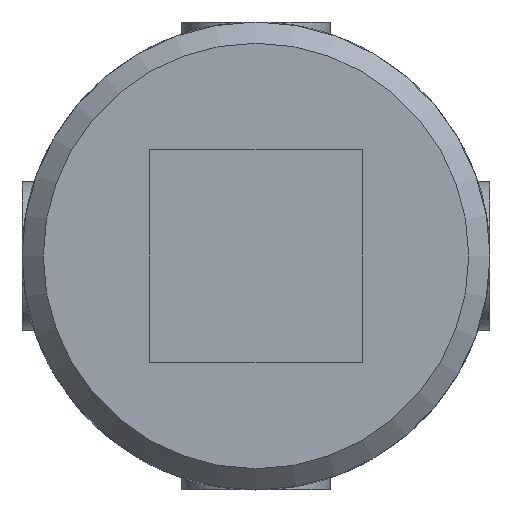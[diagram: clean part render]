
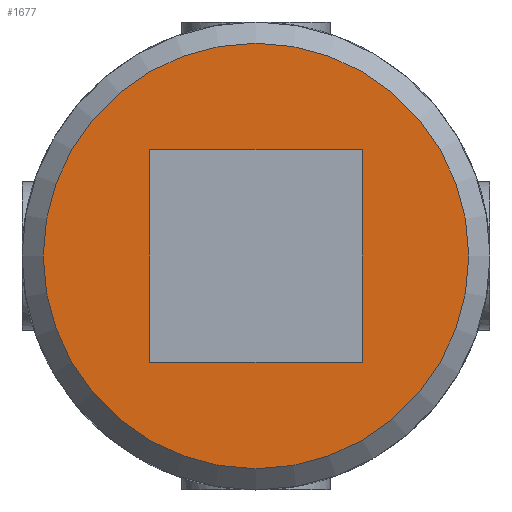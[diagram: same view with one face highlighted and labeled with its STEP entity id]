
A CAD part, front view. The second image highlights one B-rep face of the part: STEP entity #1677.
In plain terms, the highlighted planar face has unit normal (0, -1, 0).
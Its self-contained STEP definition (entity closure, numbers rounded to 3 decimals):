
#129=LINE('',#3162,#193);
#133=LINE('',#3185,#197);
#139=LINE('',#3223,#203);
#142=LINE('',#3243,#206);
#193=VECTOR('',#2176,10.);
#197=VECTOR('',#2184,10.);
#203=VECTOR('',#2192,10.);
#206=VECTOR('',#2199,10.);
#312=FACE_BOUND('',#567,.T.);
#432=FACE_OUTER_BOUND('',#566,.T.);
#566=EDGE_LOOP('',(#1425));
#567=EDGE_LOOP('',(#1426,#1427,#1428,#1429));
#656=CIRCLE('',#1845,10.);
#778=VERTEX_POINT('',#3159);
#779=VERTEX_POINT('',#3161);
#785=VERTEX_POINT('',#3184);
#794=VERTEX_POINT('',#3221);
#801=VERTEX_POINT('',#3298);
#983=EDGE_CURVE('',#779,#778,#129,.T.);
#990=EDGE_CURVE('',#785,#779,#133,.T.);
#1000=EDGE_CURVE('',#778,#794,#139,.T.);
#1006=EDGE_CURVE('',#794,#785,#142,.T.);
#1017=EDGE_CURVE('',#801,#801,#656,.T.);
#1425=ORIENTED_EDGE('',*,*,#1017,.F.);
#1426=ORIENTED_EDGE('',*,*,#983,.T.);
#1427=ORIENTED_EDGE('',*,*,#1000,.T.);
#1428=ORIENTED_EDGE('',*,*,#1006,.T.);
#1429=ORIENTED_EDGE('',*,*,#990,.T.);
#1585=PLANE('',#1847);
#1677=ADVANCED_FACE('',(#432,#312),#1585,.F.);
#1845=AXIS2_PLACEMENT_3D('',#3299,#2228,#2229);
#1847=AXIS2_PLACEMENT_3D('',#3475,#2236,#2237);
#2176=DIRECTION('',(0.,0.,-1.));
#2184=DIRECTION('',(1.,0.,0.));
#2192=DIRECTION('',(-1.,0.,0.));
#2199=DIRECTION('',(0.,0.,1.));
#2228=DIRECTION('center_axis',(0.,1.,0.));
#2229=DIRECTION('ref_axis',(1.,0.,0.));
#2236=DIRECTION('center_axis',(0.,1.,0.));
#2237=DIRECTION('ref_axis',(0.,0.,1.));
#3159=CARTESIAN_POINT('',(5.,-36.5,-5.));
#3161=CARTESIAN_POINT('',(5.,-36.5,5.));
#3162=CARTESIAN_POINT('',(5.,-36.5,2.5));
#3184=CARTESIAN_POINT('',(-5.,-36.5,5.));
#3185=CARTESIAN_POINT('',(-2.5,-36.5,5.));
#3221=CARTESIAN_POINT('',(-5.,-36.5,-5.));
#3223=CARTESIAN_POINT('',(2.5,-36.5,-5.));
#3243=CARTESIAN_POINT('',(-5.,-36.5,-2.5));
#3298=CARTESIAN_POINT('',(-10.,-36.5,0.));
#3299=CARTESIAN_POINT('Origin',(0.,-36.5,0.));
#3475=CARTESIAN_POINT('Origin',(0.,-36.5,0.));
